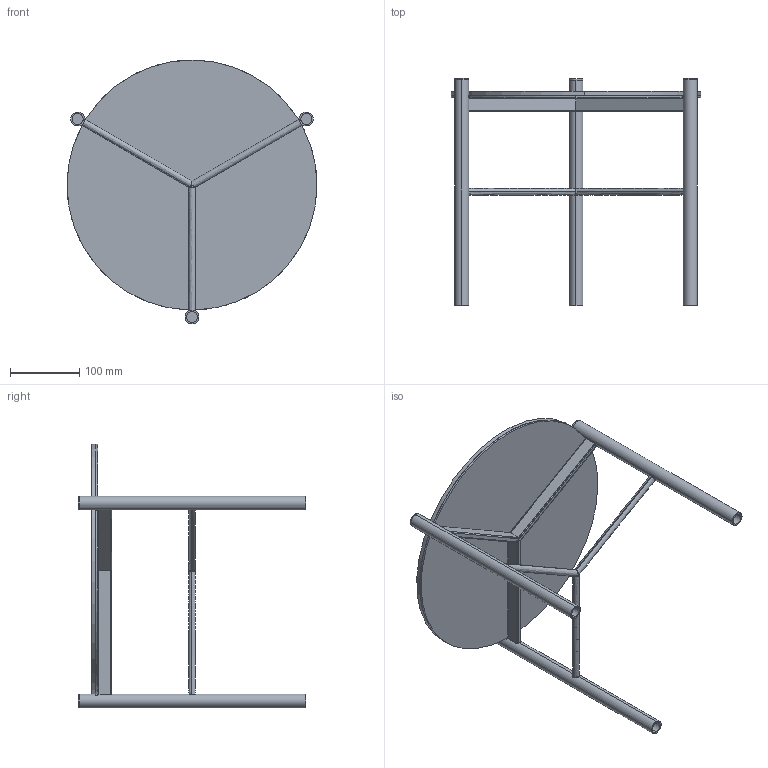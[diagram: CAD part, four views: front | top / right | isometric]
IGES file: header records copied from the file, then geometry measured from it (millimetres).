
Start section: SolidWorks IGES file using analytic representation for surfaces
Global section: file name: Y:\eforma\TECNICO\SOLIDWORKS\E-FORMA\2-TAVOLINI\JACK\02 parts\J401C.IGS; native system: SolidWorks 2022; preprocessor: SolidWorks 2022; author: eforma.tech; date: 240806.134436; units: millimetre
Bounding box: 359.95 x 327 x 380.07 mm (x, y, z)
Volume: 1070666.3 mm3; surface area: 615880.2 mm2
Topology: 14 solids, 14 shells, 125 faces, 293 edges, 194 vertices
Faces by surface type: revolution 73, plane 52
